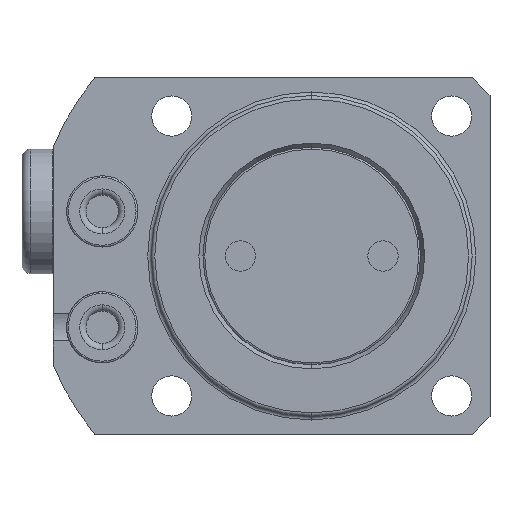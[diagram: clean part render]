
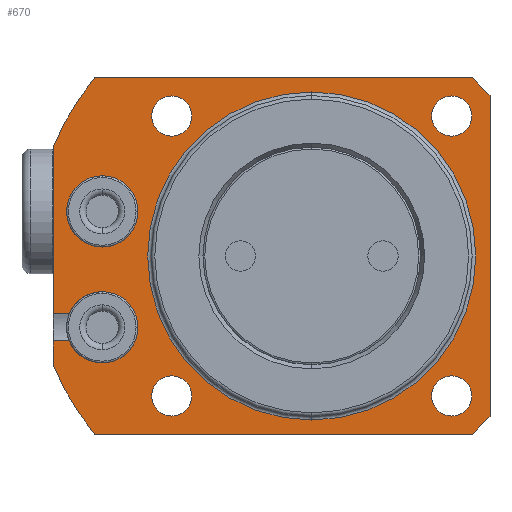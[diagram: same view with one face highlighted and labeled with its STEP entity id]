
A CAD part, front view. The second image highlights one B-rep face of the part: STEP entity #670.
In plain terms, the highlighted planar face has unit normal (0, -1, 0).
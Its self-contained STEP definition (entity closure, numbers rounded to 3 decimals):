
#298=PLANE('',#3964);
#348=FACE_BOUND('',#1170,.T.);
#349=FACE_BOUND('',#1171,.T.);
#350=FACE_BOUND('',#1172,.T.);
#351=FACE_BOUND('',#1173,.T.);
#352=FACE_BOUND('',#1174,.T.);
#353=FACE_BOUND('',#1175,.T.);
#354=FACE_BOUND('',#1176,.T.);
#670=ADVANCED_FACE('',(#348,#349,#350,#351,#352,#353,#354),#298,.T.);
#1170=EDGE_LOOP('',(#2247,#2248,#2249,#2250,#2251,#2252,#2253,#2254,#2255,
#2256,#2257,#2258,#2259,#2260));
#1171=EDGE_LOOP('',(#2261,#2262));
#1172=EDGE_LOOP('',(#2263,#2264));
#1173=EDGE_LOOP('',(#2265,#2266));
#1174=EDGE_LOOP('',(#2267,#2268));
#1175=EDGE_LOOP('',(#2269,#2270));
#1176=EDGE_LOOP('',(#2271,#2272));
#1389=LINE('',#6544,#1544);
#1390=LINE('',#6547,#1545);
#1391=LINE('',#6549,#1546);
#1392=LINE('',#6553,#1547);
#1393=LINE('',#6555,#1548);
#1394=LINE('',#6557,#1549);
#1395=LINE('',#6559,#1550);
#1396=LINE('',#6561,#1551);
#1397=LINE('',#6565,#1552);
#1544=VECTOR('',#4995,1.);
#1545=VECTOR('',#4998,1.);
#1546=VECTOR('',#4999,1.);
#1547=VECTOR('',#5002,1.);
#1548=VECTOR('',#5003,1.);
#1549=VECTOR('',#5004,1.);
#1550=VECTOR('',#5005,1.);
#1551=VECTOR('',#5006,1.);
#1552=VECTOR('',#5009,1.);
#2247=ORIENTED_EDGE('',*,*,#3210,.F.);
#2248=ORIENTED_EDGE('',*,*,#3089,.F.);
#2249=ORIENTED_EDGE('',*,*,#3211,.F.);
#2250=ORIENTED_EDGE('',*,*,#3091,.F.);
#2251=ORIENTED_EDGE('',*,*,#3212,.F.);
#2252=ORIENTED_EDGE('',*,*,#3213,.T.);
#2253=ORIENTED_EDGE('',*,*,#3214,.T.);
#2254=ORIENTED_EDGE('',*,*,#3215,.T.);
#2255=ORIENTED_EDGE('',*,*,#3216,.T.);
#2256=ORIENTED_EDGE('',*,*,#3217,.T.);
#2257=ORIENTED_EDGE('',*,*,#3218,.T.);
#2258=ORIENTED_EDGE('',*,*,#3219,.T.);
#2259=ORIENTED_EDGE('',*,*,#3220,.T.);
#2260=ORIENTED_EDGE('',*,*,#3221,.T.);
#2261=ORIENTED_EDGE('',*,*,#3222,.F.);
#2262=ORIENTED_EDGE('',*,*,#3085,.F.);
#2263=ORIENTED_EDGE('',*,*,#3113,.F.);
#2264=ORIENTED_EDGE('',*,*,#3223,.F.);
#2265=ORIENTED_EDGE('',*,*,#3121,.F.);
#2266=ORIENTED_EDGE('',*,*,#3224,.F.);
#2267=ORIENTED_EDGE('',*,*,#3129,.F.);
#2268=ORIENTED_EDGE('',*,*,#3225,.F.);
#2269=ORIENTED_EDGE('',*,*,#3137,.F.);
#2270=ORIENTED_EDGE('',*,*,#3226,.F.);
#2271=ORIENTED_EDGE('',*,*,#3227,.F.);
#2272=ORIENTED_EDGE('',*,*,#3187,.F.);
#2685=VERTEX_POINT('',#5991);
#2686=VERTEX_POINT('',#5993);
#2689=VERTEX_POINT('',#6000);
#2690=VERTEX_POINT('',#6002);
#2691=VERTEX_POINT('',#6007);
#2692=VERTEX_POINT('',#6009);
#2711=VERTEX_POINT('',#6147);
#2712=VERTEX_POINT('',#6148);
#2719=VERTEX_POINT('',#6195);
#2720=VERTEX_POINT('',#6196);
#2727=VERTEX_POINT('',#6243);
#2728=VERTEX_POINT('',#6244);
#2735=VERTEX_POINT('',#6291);
#2736=VERTEX_POINT('',#6292);
#2775=VERTEX_POINT('',#6423);
#2776=VERTEX_POINT('',#6425);
#2791=VERTEX_POINT('',#6545);
#2792=VERTEX_POINT('',#6548);
#2793=VERTEX_POINT('',#6550);
#2794=VERTEX_POINT('',#6552);
#2795=VERTEX_POINT('',#6554);
#2796=VERTEX_POINT('',#6556);
#2797=VERTEX_POINT('',#6558);
#2798=VERTEX_POINT('',#6560);
#2799=VERTEX_POINT('',#6562);
#2800=VERTEX_POINT('',#6564);
#3085=EDGE_CURVE('',#2685,#2686,#3455,.T.);
#3089=EDGE_CURVE('',#2689,#2690,#3457,.T.);
#3091=EDGE_CURVE('',#2691,#2692,#3458,.T.);
#3113=EDGE_CURVE('',#2711,#2712,#3464,.T.);
#3121=EDGE_CURVE('',#2719,#2720,#3467,.T.);
#3129=EDGE_CURVE('',#2727,#2728,#3470,.T.);
#3137=EDGE_CURVE('',#2735,#2736,#3473,.T.);
#3187=EDGE_CURVE('',#2775,#2776,#3504,.T.);
#3210=EDGE_CURVE('',#2690,#2791,#1389,.T.);
#3211=EDGE_CURVE('',#2692,#2689,#3514,.T.);
#3212=EDGE_CURVE('',#2792,#2691,#1390,.T.);
#3213=EDGE_CURVE('',#2792,#2793,#1391,.T.);
#3214=EDGE_CURVE('',#2793,#2794,#3515,.T.);
#3215=EDGE_CURVE('',#2794,#2795,#1392,.T.);
#3216=EDGE_CURVE('',#2795,#2796,#1393,.T.);
#3217=EDGE_CURVE('',#2796,#2797,#1394,.T.);
#3218=EDGE_CURVE('',#2797,#2798,#1395,.T.);
#3219=EDGE_CURVE('',#2798,#2799,#1396,.T.);
#3220=EDGE_CURVE('',#2799,#2800,#3516,.T.);
#3221=EDGE_CURVE('',#2800,#2791,#1397,.T.);
#3222=EDGE_CURVE('',#2686,#2685,#3517,.T.);
#3223=EDGE_CURVE('',#2712,#2711,#3518,.T.);
#3224=EDGE_CURVE('',#2720,#2719,#3519,.T.);
#3225=EDGE_CURVE('',#2728,#2727,#3520,.T.);
#3226=EDGE_CURVE('',#2736,#2735,#3521,.T.);
#3227=EDGE_CURVE('',#2776,#2775,#3522,.T.);
#3455=CIRCLE('',#3864,4.);
#3457=CIRCLE('',#3867,4.);
#3458=CIRCLE('',#3868,4.);
#3464=CIRCLE('',#3881,2.25);
#3467=CIRCLE('',#3886,2.25);
#3470=CIRCLE('',#3891,2.25);
#3473=CIRCLE('',#3896,2.25);
#3504=CIRCLE('',#3940,18.4);
#3514=CIRCLE('',#3955,4.);
#3515=CIRCLE('',#3956,31.5);
#3516=CIRCLE('',#3957,31.5);
#3517=CIRCLE('',#3958,4.);
#3518=CIRCLE('',#3959,2.25);
#3519=CIRCLE('',#3960,2.25);
#3520=CIRCLE('',#3961,2.25);
#3521=CIRCLE('',#3962,2.25);
#3522=CIRCLE('',#3963,18.4);
#3864=AXIS2_PLACEMENT_3D('',#5992,#4762,#4763);
#3867=AXIS2_PLACEMENT_3D('',#6001,#4770,#4771);
#3868=AXIS2_PLACEMENT_3D('',#6008,#4772,#4773);
#3881=AXIS2_PLACEMENT_3D('',#6146,#4811,#4812);
#3886=AXIS2_PLACEMENT_3D('',#6194,#4825,#4826);
#3891=AXIS2_PLACEMENT_3D('',#6242,#4839,#4840);
#3896=AXIS2_PLACEMENT_3D('',#6290,#4853,#4854);
#3940=AXIS2_PLACEMENT_3D('',#6424,#4959,#4960);
#3955=AXIS2_PLACEMENT_3D('',#6546,#4996,#4997);
#3956=AXIS2_PLACEMENT_3D('',#6551,#5000,#5001);
#3957=AXIS2_PLACEMENT_3D('',#6563,#5007,#5008);
#3958=AXIS2_PLACEMENT_3D('',#6566,#5010,#5011);
#3959=AXIS2_PLACEMENT_3D('',#6567,#5012,#5013);
#3960=AXIS2_PLACEMENT_3D('',#6568,#5014,#5015);
#3961=AXIS2_PLACEMENT_3D('',#6569,#5016,#5017);
#3962=AXIS2_PLACEMENT_3D('',#6570,#5018,#5019);
#3963=AXIS2_PLACEMENT_3D('',#6571,#5020,#5021);
#3964=AXIS2_PLACEMENT_3D('',#6572,#5022,#5023);
#4762=DIRECTION('',(0.,-1.,0.));
#4763=DIRECTION('',(0.,0.,-1.));
#4770=DIRECTION('',(0.,-1.,0.));
#4771=DIRECTION('',(0.,0.,-1.));
#4772=DIRECTION('',(0.,-1.,0.));
#4773=DIRECTION('',(0.,0.,-1.));
#4811=DIRECTION('',(0.,-1.,0.));
#4812=DIRECTION('',(0.,0.,-1.));
#4825=DIRECTION('',(0.,-1.,0.));
#4826=DIRECTION('',(0.,0.,-1.));
#4839=DIRECTION('',(0.,-1.,0.));
#4840=DIRECTION('',(0.,0.,-1.));
#4853=DIRECTION('',(0.,-1.,0.));
#4854=DIRECTION('',(0.,0.,-1.));
#4959=DIRECTION('',(0.,-1.,0.));
#4960=DIRECTION('',(0.,0.,-1.));
#4995=DIRECTION('',(-1.,0.,0.));
#4996=DIRECTION('',(0.,-1.,0.));
#4997=DIRECTION('',(0.,0.,-1.));
#4998=DIRECTION('',(1.,0.,0.));
#4999=DIRECTION('',(0.,0.,-1.));
#5000=DIRECTION('',(0.,-1.,0.));
#5001=DIRECTION('',(0.,0.,-1.));
#5002=DIRECTION('',(1.,0.,0.));
#5003=DIRECTION('',(0.707,0.,0.707));
#5004=DIRECTION('',(0.,0.,1.));
#5005=DIRECTION('',(-0.707,0.,0.707));
#5006=DIRECTION('',(-1.,0.,0.));
#5007=DIRECTION('',(0.,-1.,0.));
#5008=DIRECTION('',(0.,0.,-1.));
#5009=DIRECTION('',(0.,0.,-1.));
#5010=DIRECTION('',(0.,-1.,0.));
#5011=DIRECTION('',(0.,0.,-1.));
#5012=DIRECTION('',(0.,-1.,0.));
#5013=DIRECTION('',(0.,0.,-1.));
#5014=DIRECTION('',(0.,-1.,0.));
#5015=DIRECTION('',(0.,0.,-1.));
#5016=DIRECTION('',(0.,-1.,0.));
#5017=DIRECTION('',(0.,0.,-1.));
#5018=DIRECTION('',(0.,-1.,0.));
#5019=DIRECTION('',(0.,0.,-1.));
#5020=DIRECTION('',(0.,-1.,0.));
#5021=DIRECTION('',(0.,0.,-1.));
#5022=DIRECTION('',(0.,-1.,0.));
#5023=DIRECTION('',(0.,0.,1.));
#5991=CARTESIAN_POINT('',(-23.5,27.628,9.));
#5992=CARTESIAN_POINT('',(-23.5,27.628,5.));
#5993=CARTESIAN_POINT('',(-23.5,27.628,1.));
#6000=CARTESIAN_POINT('',(-23.5,27.628,-4.));
#6001=CARTESIAN_POINT('',(-23.5,27.628,-8.));
#6002=CARTESIAN_POINT('',(-27.2,27.628,-6.48));
#6007=CARTESIAN_POINT('',(-27.2,27.628,-9.52));
#6008=CARTESIAN_POINT('',(-23.5,27.628,-8.));
#6009=CARTESIAN_POINT('',(-23.5,27.628,-12.));
#6146=CARTESIAN_POINT('',(-15.7,27.628,-15.7));
#6147=CARTESIAN_POINT('',(-15.7,27.628,-13.45));
#6148=CARTESIAN_POINT('',(-15.7,27.628,-17.95));
#6194=CARTESIAN_POINT('',(-15.7,27.628,15.7));
#6195=CARTESIAN_POINT('',(-15.7,27.628,17.95));
#6196=CARTESIAN_POINT('',(-15.7,27.628,13.45));
#6242=CARTESIAN_POINT('',(15.7,27.628,15.7));
#6243=CARTESIAN_POINT('',(15.7,27.628,17.95));
#6244=CARTESIAN_POINT('',(15.7,27.628,13.45));
#6290=CARTESIAN_POINT('',(15.7,27.628,-15.7));
#6291=CARTESIAN_POINT('',(15.7,27.628,-13.45));
#6292=CARTESIAN_POINT('',(15.7,27.628,-17.95));
#6423=CARTESIAN_POINT('',(0.,27.628,18.4));
#6424=CARTESIAN_POINT('',(0.,27.628,0.));
#6425=CARTESIAN_POINT('',(0.,27.628,-18.4));
#6544=CARTESIAN_POINT('',(-24.,27.628,-6.48));
#6545=CARTESIAN_POINT('',(-29.,27.628,-6.48));
#6546=CARTESIAN_POINT('',(-23.5,27.628,-8.));
#6547=CARTESIAN_POINT('',(-24.,27.628,-9.52));
#6548=CARTESIAN_POINT('',(-29.,27.628,-9.52));
#6549=CARTESIAN_POINT('',(-29.,27.628,0.));
#6550=CARTESIAN_POINT('',(-29.,27.628,-12.298));
#6551=CARTESIAN_POINT('',(0.,27.628,0.));
#6552=CARTESIAN_POINT('',(-24.336,27.628,-20.));
#6553=CARTESIAN_POINT('',(31.5,27.628,-20.));
#6554=CARTESIAN_POINT('',(18.,27.628,-20.));
#6555=CARTESIAN_POINT('',(34.75,27.628,-3.25));
#6556=CARTESIAN_POINT('',(20.,27.628,-18.));
#6557=CARTESIAN_POINT('',(20.,27.628,0.));
#6558=CARTESIAN_POINT('',(20.,27.628,18.));
#6559=CARTESIAN_POINT('',(34.75,27.628,3.25));
#6560=CARTESIAN_POINT('',(18.,27.628,20.));
#6561=CARTESIAN_POINT('',(31.5,27.628,20.));
#6562=CARTESIAN_POINT('',(-24.336,27.628,20.));
#6563=CARTESIAN_POINT('',(0.,27.628,0.));
#6564=CARTESIAN_POINT('',(-29.,27.628,12.298));
#6565=CARTESIAN_POINT('',(-29.,27.628,0.));
#6566=CARTESIAN_POINT('',(-23.5,27.628,5.));
#6567=CARTESIAN_POINT('',(-15.7,27.628,-15.7));
#6568=CARTESIAN_POINT('',(-15.7,27.628,15.7));
#6569=CARTESIAN_POINT('',(15.7,27.628,15.7));
#6570=CARTESIAN_POINT('',(15.7,27.628,-15.7));
#6571=CARTESIAN_POINT('',(0.,27.628,0.));
#6572=CARTESIAN_POINT('',(31.5,27.628,0.));
